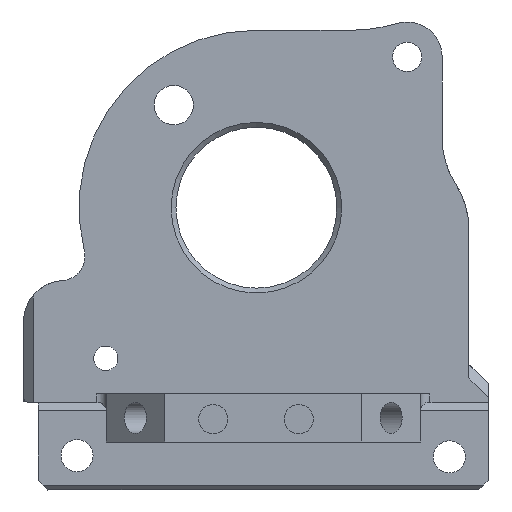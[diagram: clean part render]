
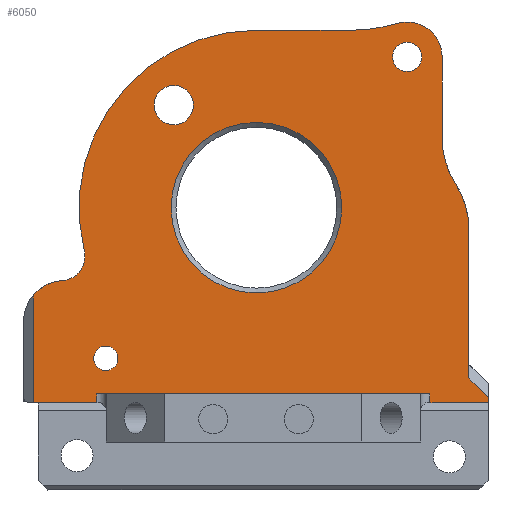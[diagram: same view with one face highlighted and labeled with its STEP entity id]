
A CAD part, front view. The second image highlights one B-rep face of the part: STEP entity #6050.
In plain terms, the highlighted planar face has unit normal (0, -1, 0).
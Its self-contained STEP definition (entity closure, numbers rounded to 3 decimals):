
#234=FACE_BOUND('',#1028,.T.);
#235=FACE_BOUND('',#1029,.T.);
#236=FACE_BOUND('',#1030,.T.);
#237=FACE_BOUND('',#1031,.T.);
#345=CIRCLE('',#6518,8.75);
#346=CIRCLE('',#6519,8.75);
#347=CIRCLE('',#6520,3.6);
#348=CIRCLE('',#6521,16.25);
#349=CIRCLE('',#6522,18.25);
#350=CIRCLE('',#6523,2.5);
#351=CIRCLE('',#6524,4.2);
#352=CIRCLE('',#6525,1.25);
#353=CIRCLE('',#6526,8.775);
#354=CIRCLE('',#6527,1.5);
#355=CIRCLE('',#6528,2.025);
#644=FACE_OUTER_BOUND('',#1027,.T.);
#1027=EDGE_LOOP('',(#4413,#4414,#4415,#4416,#4417,#4418,#4419,#4420,#4421,
#4422,#4423,#4424,#4425,#4426,#4427,#4428,#4429,#4430));
#1028=EDGE_LOOP('',(#4431));
#1029=EDGE_LOOP('',(#4432));
#1030=EDGE_LOOP('',(#4433));
#1031=EDGE_LOOP('',(#4434));
#1467=LINE('',#9428,#2030);
#1480=LINE('',#9455,#2043);
#1551=LINE('',#9641,#2114);
#1552=LINE('',#9643,#2115);
#1553=LINE('',#9645,#2116);
#1554=LINE('',#9646,#2117);
#1555=LINE('',#9648,#2118);
#1556=LINE('',#9650,#2119);
#1557=LINE('',#9656,#2120);
#1558=LINE('',#9662,#2121);
#1559=LINE('',#9669,#2122);
#2030=VECTOR('',#7259,10.);
#2043=VECTOR('',#7280,10.);
#2114=VECTOR('',#7447,10.);
#2115=VECTOR('',#7448,10.);
#2116=VECTOR('',#7449,10.);
#2117=VECTOR('',#7450,10.);
#2118=VECTOR('',#7451,10.);
#2119=VECTOR('',#7452,10.);
#2120=VECTOR('',#7457,1000.);
#2121=VECTOR('',#7462,1000.);
#2122=VECTOR('',#7469,10.);
#2657=VERTEX_POINT('',#9425);
#2658=VERTEX_POINT('',#9427);
#2667=VERTEX_POINT('',#9452);
#2668=VERTEX_POINT('',#9454);
#2735=VERTEX_POINT('',#9640);
#2736=VERTEX_POINT('',#9642);
#2737=VERTEX_POINT('',#9644);
#2738=VERTEX_POINT('',#9647);
#2739=VERTEX_POINT('',#9649);
#2740=VERTEX_POINT('',#9651);
#2741=VERTEX_POINT('',#9653);
#2742=VERTEX_POINT('',#9655);
#2743=VERTEX_POINT('',#9657);
#2744=VERTEX_POINT('',#9659);
#2745=VERTEX_POINT('',#9661);
#2746=VERTEX_POINT('',#9663);
#2747=VERTEX_POINT('',#9665);
#2748=VERTEX_POINT('',#9667);
#2749=VERTEX_POINT('',#9670);
#2750=VERTEX_POINT('',#9672);
#2751=VERTEX_POINT('',#9674);
#2752=VERTEX_POINT('',#9676);
#3255=EDGE_CURVE('',#2658,#2657,#1467,.T.);
#3268=EDGE_CURVE('',#2668,#2667,#1480,.T.);
#3361=EDGE_CURVE('',#2735,#2657,#1551,.T.);
#3362=EDGE_CURVE('',#2735,#2736,#1552,.T.);
#3363=EDGE_CURVE('',#2737,#2736,#1553,.T.);
#3364=EDGE_CURVE('',#2737,#2668,#1554,.T.);
#3365=EDGE_CURVE('',#2738,#2667,#1555,.T.);
#3366=EDGE_CURVE('',#2738,#2739,#1556,.T.);
#3367=EDGE_CURVE('',#2740,#2739,#345,.T.);
#3368=EDGE_CURVE('',#2740,#2741,#346,.F.);
#3369=EDGE_CURVE('',#2741,#2742,#1557,.T.);
#3370=EDGE_CURVE('',#2742,#2743,#347,.T.);
#3371=EDGE_CURVE('',#2744,#2743,#348,.T.);
#3372=EDGE_CURVE('',#2744,#2745,#1558,.T.);
#3373=EDGE_CURVE('',#2745,#2746,#349,.T.);
#3374=EDGE_CURVE('',#2747,#2746,#350,.T.);
#3375=EDGE_CURVE('',#2748,#2747,#351,.T.);
#3376=EDGE_CURVE('',#2658,#2748,#1559,.T.);
#3377=EDGE_CURVE('',#2749,#2749,#352,.T.);
#3378=EDGE_CURVE('',#2750,#2750,#353,.T.);
#3379=EDGE_CURVE('',#2751,#2751,#354,.T.);
#3380=EDGE_CURVE('',#2752,#2752,#355,.T.);
#4413=ORIENTED_EDGE('',*,*,#3255,.T.);
#4414=ORIENTED_EDGE('',*,*,#3361,.F.);
#4415=ORIENTED_EDGE('',*,*,#3362,.T.);
#4416=ORIENTED_EDGE('',*,*,#3363,.F.);
#4417=ORIENTED_EDGE('',*,*,#3364,.T.);
#4418=ORIENTED_EDGE('',*,*,#3268,.T.);
#4419=ORIENTED_EDGE('',*,*,#3365,.F.);
#4420=ORIENTED_EDGE('',*,*,#3366,.T.);
#4421=ORIENTED_EDGE('',*,*,#3367,.F.);
#4422=ORIENTED_EDGE('',*,*,#3368,.T.);
#4423=ORIENTED_EDGE('',*,*,#3369,.T.);
#4424=ORIENTED_EDGE('',*,*,#3370,.T.);
#4425=ORIENTED_EDGE('',*,*,#3371,.F.);
#4426=ORIENTED_EDGE('',*,*,#3372,.T.);
#4427=ORIENTED_EDGE('',*,*,#3373,.T.);
#4428=ORIENTED_EDGE('',*,*,#3374,.F.);
#4429=ORIENTED_EDGE('',*,*,#3375,.F.);
#4430=ORIENTED_EDGE('',*,*,#3376,.F.);
#4431=ORIENTED_EDGE('',*,*,#3377,.T.);
#4432=ORIENTED_EDGE('',*,*,#3378,.F.);
#4433=ORIENTED_EDGE('',*,*,#3379,.F.);
#4434=ORIENTED_EDGE('',*,*,#3380,.T.);
#5846=PLANE('',#6517);
#6050=ADVANCED_FACE('',(#644,#234,#235,#236,#237),#5846,.F.);
#6517=AXIS2_PLACEMENT_3D('',#9639,#7445,#7446);
#6518=AXIS2_PLACEMENT_3D('',#9652,#7453,#7454);
#6519=AXIS2_PLACEMENT_3D('',#9654,#7455,#7456);
#6520=AXIS2_PLACEMENT_3D('',#9658,#7458,#7459);
#6521=AXIS2_PLACEMENT_3D('',#9660,#7460,#7461);
#6522=AXIS2_PLACEMENT_3D('',#9664,#7463,#7464);
#6523=AXIS2_PLACEMENT_3D('',#9666,#7465,#7466);
#6524=AXIS2_PLACEMENT_3D('',#9668,#7467,#7468);
#6525=AXIS2_PLACEMENT_3D('',#9671,#7470,#7471);
#6526=AXIS2_PLACEMENT_3D('',#9673,#7472,#7473);
#6527=AXIS2_PLACEMENT_3D('',#9675,#7474,#7475);
#6528=AXIS2_PLACEMENT_3D('',#9677,#7476,#7477);
#7259=DIRECTION('',(1.,0.,0.));
#7280=DIRECTION('',(0.,0.,1.));
#7445=DIRECTION('center_axis',(0.,1.,0.));
#7446=DIRECTION('ref_axis',(-1.,0.,0.));
#7447=DIRECTION('',(0.,0.,-1.));
#7448=DIRECTION('',(1.,0.,0.));
#7449=DIRECTION('',(0.,0.,1.));
#7450=DIRECTION('',(1.,0.,0.));
#7451=DIRECTION('',(0.707,0.,-0.707));
#7452=DIRECTION('',(0.,0.,1.));
#7453=DIRECTION('center_axis',(0.,1.,0.));
#7454=DIRECTION('ref_axis',(0.96,0.,0.28));
#7455=DIRECTION('center_axis',(0.,-1.,0.));
#7456=DIRECTION('ref_axis',(-0.686,0.,-0.728));
#7457=DIRECTION('',(0.,0.,1.));
#7458=DIRECTION('center_axis',(0.,-1.,0.));
#7459=DIRECTION('ref_axis',(-1.,0.,0.));
#7460=DIRECTION('center_axis',(0.,-1.,0.));
#7461=DIRECTION('ref_axis',(0.,0.,
1.));
#7462=DIRECTION('',(-1.,0.,0.));
#7463=DIRECTION('center_axis',(0.,-1.,0.));
#7464=DIRECTION('ref_axis',(-1.,0.,0.));
#7465=DIRECTION('center_axis',(0.,-1.,0.));
#7466=DIRECTION('ref_axis',(-0.97,0.,-0.242));
#7467=DIRECTION('center_axis',(0.,1.,0.));
#7468=DIRECTION('ref_axis',(-0.707,0.,0.707));
#7469=DIRECTION('',(0.,0.,1.));
#7470=DIRECTION('center_axis',(0.,1.,0.));
#7471=DIRECTION('ref_axis',(-1.,0.,0.));
#7472=DIRECTION('center_axis',(0.,-1.,0.));
#7473=DIRECTION('ref_axis',(-1.,0.,0.));
#7474=DIRECTION('center_axis',(0.,-1.,0.));
#7475=DIRECTION('ref_axis',(-1.,0.,0.));
#7476=DIRECTION('center_axis',(0.,1.,0.));
#7477=DIRECTION('ref_axis',(1.,0.,0.));
#9425=CARTESIAN_POINT('',(105.505,28.054,28.413));
#9427=CARTESIAN_POINT('',(99.011,28.054,28.413));
#9428=CARTESIAN_POINT('',(109.733,28.054,28.413));
#9452=CARTESIAN_POINT('',(145.8,28.054,28.937));
#9454=CARTESIAN_POINT('',(145.8,28.054,28.413));
#9455=CARTESIAN_POINT('',(145.8,28.054,33.933));
#9639=CARTESIAN_POINT('Origin',(121.95,28.054,48.451));
#9640=CARTESIAN_POINT('',(105.505,28.054,29.301));
#9641=CARTESIAN_POINT('',(105.505,28.054,38.401));
#9642=CARTESIAN_POINT('',(139.8,28.054,29.301));
#9643=CARTESIAN_POINT('',(122.301,28.054,29.301));
#9644=CARTESIAN_POINT('',(139.8,28.054,28.413));
#9645=CARTESIAN_POINT('',(139.8,28.054,35.726));
#9646=CARTESIAN_POINT('',(130.369,28.054,28.413));
#9647=CARTESIAN_POINT('',(143.8,28.054,30.937));
#9648=CARTESIAN_POINT('',(130.612,28.054,44.125));
#9649=CARTESIAN_POINT('',(143.8,28.054,46.191));
#9650=CARTESIAN_POINT('',(143.8,28.054,40.959));
#9651=CARTESIAN_POINT('',(142.425,28.054,50.9));
#9652=CARTESIAN_POINT('Origin',(135.05,28.054,46.191));
#9653=CARTESIAN_POINT('',(141.05,28.054,55.609));
#9654=CARTESIAN_POINT('Origin',(149.8,28.054,55.609));
#9655=CARTESIAN_POINT('',(141.05,28.054,63.951));
#9656=CARTESIAN_POINT('',(141.05,28.054,63.951));
#9657=CARTESIAN_POINT('',(136.408,28.054,67.397));
#9658=CARTESIAN_POINT('Origin',(137.45,28.054,63.951));
#9659=CARTESIAN_POINT('',(131.703,28.054,66.701));
#9660=CARTESIAN_POINT('Origin',(131.703,28.054,82.951));
#9661=CARTESIAN_POINT('',(121.95,28.054,66.701));
#9662=CARTESIAN_POINT('',(134.829,28.054,66.701));
#9663=CARTESIAN_POINT('',(104.24,28.054,44.043));
#9664=CARTESIAN_POINT('Origin',(121.95,28.054,48.451));
#9665=CARTESIAN_POINT('',(101.962,28.054,40.944));
#9666=CARTESIAN_POINT('Origin',(101.814,28.054,43.439));
#9667=CARTESIAN_POINT('',(99.011,28.054,39.471));
#9668=CARTESIAN_POINT('Origin',(102.211,28.054,36.751));
#9669=CARTESIAN_POINT('',(99.011,28.054,40.401));
#9670=CARTESIAN_POINT('',(107.7,28.054,32.951));
#9671=CARTESIAN_POINT('Origin',(106.45,28.054,32.951));
#9672=CARTESIAN_POINT('',(130.725,28.054,48.451));
#9673=CARTESIAN_POINT('Origin',(121.95,28.054,48.451));
#9674=CARTESIAN_POINT('',(138.95,28.054,63.951));
#9675=CARTESIAN_POINT('Origin',(137.45,28.054,63.951));
#9676=CARTESIAN_POINT('',(111.425,28.054,59.003));
#9677=CARTESIAN_POINT('Origin',(113.45,28.054,59.003));
